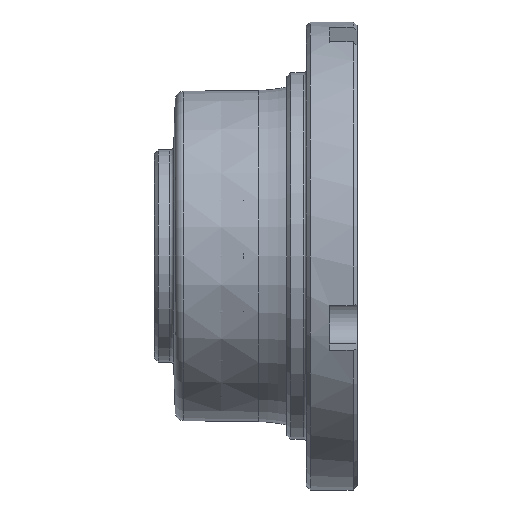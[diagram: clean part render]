
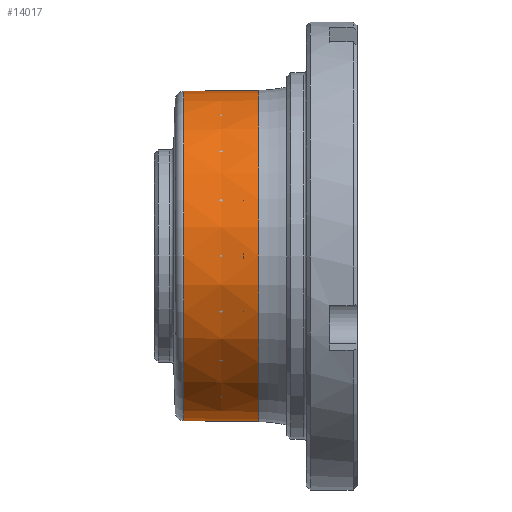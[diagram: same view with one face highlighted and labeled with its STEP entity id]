
A CAD part, front view. The second image highlights one B-rep face of the part: STEP entity #14017.
In plain terms, the highlighted conical face has half-angle 0.7 degrees and reference radius 21.121 mm.
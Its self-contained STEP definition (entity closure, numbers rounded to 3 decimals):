
#704 = EDGE_CURVE ( 'NONE', #6776, #8470, #2388, .T. ) ;
#1002 = ORIENTED_EDGE ( 'NONE', *, *, #9789, .T. ) ;
#1024 = CIRCLE ( 'NONE', #5221, 21.239 ) ;
#1624 = ORIENTED_EDGE ( 'NONE', *, *, #5805, .F. ) ;
#1678 = VERTEX_POINT ( 'NONE', #2675 ) ;
#1803 = DIRECTION ( 'NONE',  ( 1., 0., -0.012 ) ) ;
#1804 = AXIS2_PLACEMENT_3D ( 'NONE', #10545, #3897, #11654 ) ;
#2011 = CONICAL_SURFACE ( 'NONE', #2976, 21.121, 0.012 ) ;
#2388 = LINE ( 'NONE', #3976, #5308 ) ;
#2404 = EDGE_CURVE ( 'NONE', #6776, #6950, #8505, .T. ) ;
#2675 = CARTESIAN_POINT ( 'NONE',  ( 13.393, 0., 21.239 ) ) ;
#2897 = LINE ( 'NONE', #8978, #4441 ) ;
#2976 = AXIS2_PLACEMENT_3D ( 'NONE', #14231, #8763, #9892 ) ;
#3693 = CARTESIAN_POINT ( 'NONE',  ( 3.787, 0., 21.121 ) ) ;
#3897 = DIRECTION ( 'NONE',  ( -1., 0., 0. ) ) ;
#3976 = CARTESIAN_POINT ( 'NONE',  ( 3.787, 0., -21.121 ) ) ;
#4124 = EDGE_LOOP ( 'NONE', ( #1624, #14015, #13621, #1002 ) ) ;
#4441 = VECTOR ( 'NONE', #6736, 1000. ) ;
#5221 = AXIS2_PLACEMENT_3D ( 'NONE', #12896, #6266, #14002 ) ;
#5308 = VECTOR ( 'NONE', #1803, 1000. ) ;
#5613 = FACE_OUTER_BOUND ( 'NONE', #4124, .T. ) ;
#5805 = EDGE_CURVE ( 'NONE', #6950, #1678, #2897, .T. ) ;
#6266 = DIRECTION ( 'NONE',  ( -1., 0., 0. ) ) ;
#6736 = DIRECTION ( 'NONE',  ( 1., 0., 0.012 ) ) ;
#6776 = VERTEX_POINT ( 'NONE', #11242 ) ;
#6950 = VERTEX_POINT ( 'NONE', #3693 ) ;
#7791 = CARTESIAN_POINT ( 'NONE',  ( 13.393, 0., -21.239 ) ) ;
#8470 = VERTEX_POINT ( 'NONE', #7791 ) ;
#8505 = CIRCLE ( 'NONE', #1804, 21.121 ) ;
#8763 = DIRECTION ( 'NONE',  ( 1., 0., 0. ) ) ;
#8978 = CARTESIAN_POINT ( 'NONE',  ( 3.787, 0., 21.121 ) ) ;
#9789 = EDGE_CURVE ( 'NONE', #8470, #1678, #1024, .T. ) ;
#9892 = DIRECTION ( 'NONE',  ( 0., 0., -1. ) ) ;
#10545 = CARTESIAN_POINT ( 'NONE',  ( 3.787, 0., 0. ) ) ;
#11242 = CARTESIAN_POINT ( 'NONE',  ( 3.787, 0., -21.121 ) ) ;
#11654 = DIRECTION ( 'NONE',  ( 0., 0., 1. ) ) ;
#12896 = CARTESIAN_POINT ( 'NONE',  ( 13.393, 0., 0. ) ) ;
#13621 = ORIENTED_EDGE ( 'NONE', *, *, #704, .T. ) ;
#14002 = DIRECTION ( 'NONE',  ( 0., 0., 1. ) ) ;
#14015 = ORIENTED_EDGE ( 'NONE', *, *, #2404, .F. ) ;
#14017 = ADVANCED_FACE ( 'NONE', ( #5613 ), #2011, .T. ) ;
#14231 = CARTESIAN_POINT ( 'NONE',  ( 3.787, 0., 0. ) ) ;
